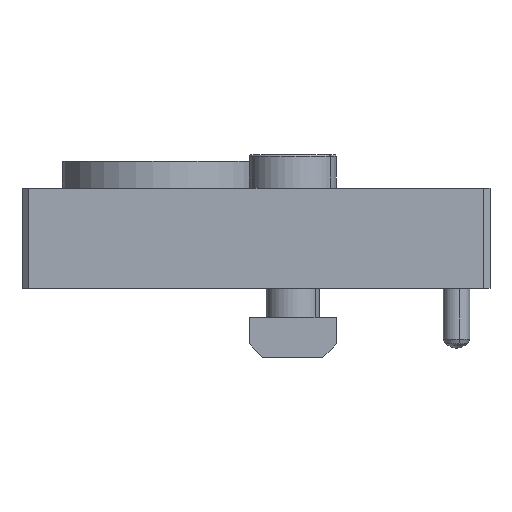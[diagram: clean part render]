
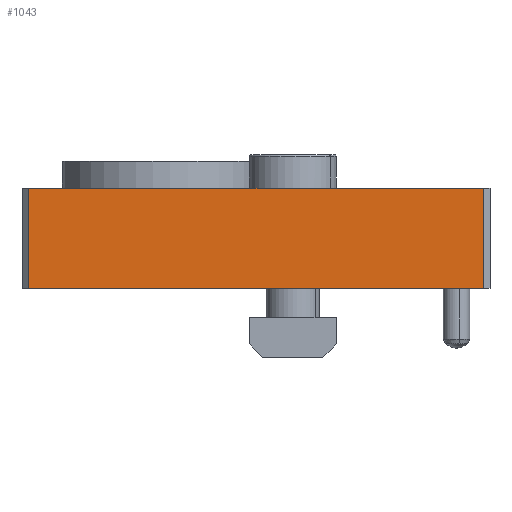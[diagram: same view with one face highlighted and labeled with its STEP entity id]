
A CAD part, left-side view. The second image highlights one B-rep face of the part: STEP entity #1043.
In plain terms, the highlighted planar face has unit normal (-1, 0, 0).
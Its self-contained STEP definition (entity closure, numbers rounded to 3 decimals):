
#38 = CARTESIAN_POINT ( 'NONE',  ( -30., -15., 70. ) ) ;
#71 = VECTOR ( 'NONE', #447, 1000. ) ;
#205 = LINE ( 'NONE', #38, #71 ) ;
#228 = EDGE_LOOP ( 'NONE', ( #2666, #1110, #801, #2205 ) ) ;
#234 = EDGE_CURVE ( 'NONE', #765, #2178, #847, .T. ) ;
#264 = DIRECTION ( 'NONE',  ( 0., 0., -1. ) ) ;
#370 = EDGE_CURVE ( 'NONE', #2018, #765, #2883, .T. ) ;
#447 = DIRECTION ( 'NONE',  ( 0., 0., -1. ) ) ;
#574 = DIRECTION ( 'NONE',  ( 0., 1., 0. ) ) ;
#744 = EDGE_CURVE ( 'NONE', #2018, #1036, #205, .T. ) ;
#765 = VERTEX_POINT ( 'NONE', #1607 ) ;
#798 = CARTESIAN_POINT ( 'NONE',  ( -30., -15., 1. ) ) ;
#801 = ORIENTED_EDGE ( 'NONE', *, *, #744, .F. ) ;
#847 = LINE ( 'NONE', #1654, #1856 ) ;
#1019 = CARTESIAN_POINT ( 'NONE',  ( -30., -15., 69. ) ) ;
#1036 = VERTEX_POINT ( 'NONE', #798 ) ;
#1043 = ADVANCED_FACE ( 'NONE', ( #1810 ), #2414, .F. ) ;
#1062 = VECTOR ( 'NONE', #1704, 1000. ) ;
#1110 = ORIENTED_EDGE ( 'NONE', *, *, #1459, .T. ) ;
#1199 = AXIS2_PLACEMENT_3D ( 'NONE', #2695, #1226, #574 ) ;
#1226 = DIRECTION ( 'NONE',  ( 1., 0., 0. ) ) ;
#1459 = EDGE_CURVE ( 'NONE', #2178, #1036, #2232, .T. ) ;
#1607 = CARTESIAN_POINT ( 'NONE',  ( -30., 0., 69. ) ) ;
#1654 = CARTESIAN_POINT ( 'NONE',  ( -30., 0., 70. ) ) ;
#1704 = DIRECTION ( 'NONE',  ( 0., 1., 0. ) ) ;
#1791 = CARTESIAN_POINT ( 'NONE',  ( -30., -15., 1. ) ) ;
#1810 = FACE_OUTER_BOUND ( 'NONE', #228, .T. ) ;
#1856 = VECTOR ( 'NONE', #264, 1000. ) ;
#2018 = VERTEX_POINT ( 'NONE', #2024 ) ;
#2024 = CARTESIAN_POINT ( 'NONE',  ( -30., -15., 69. ) ) ;
#2178 = VERTEX_POINT ( 'NONE', #2770 ) ;
#2205 = ORIENTED_EDGE ( 'NONE', *, *, #370, .T. ) ;
#2232 = LINE ( 'NONE', #1791, #2654 ) ;
#2414 = PLANE ( 'NONE',  #1199 ) ;
#2654 = VECTOR ( 'NONE', #3001, 1000. ) ;
#2666 = ORIENTED_EDGE ( 'NONE', *, *, #234, .T. ) ;
#2695 = CARTESIAN_POINT ( 'NONE',  ( -30., -15., 70. ) ) ;
#2770 = CARTESIAN_POINT ( 'NONE',  ( -30., 0., 1. ) ) ;
#2883 = LINE ( 'NONE', #1019, #1062 ) ;
#3001 = DIRECTION ( 'NONE',  ( 0., -1., 0. ) ) ;
